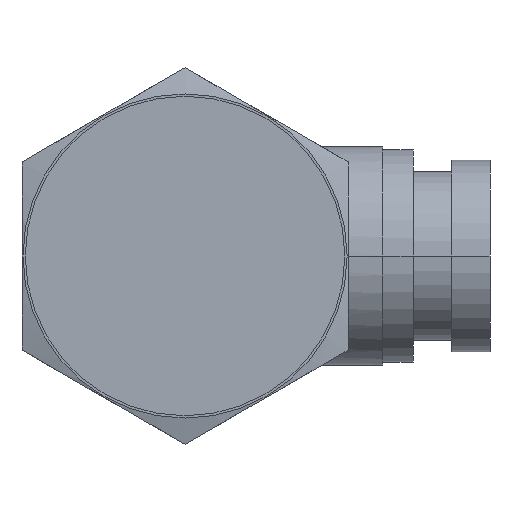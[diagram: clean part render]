
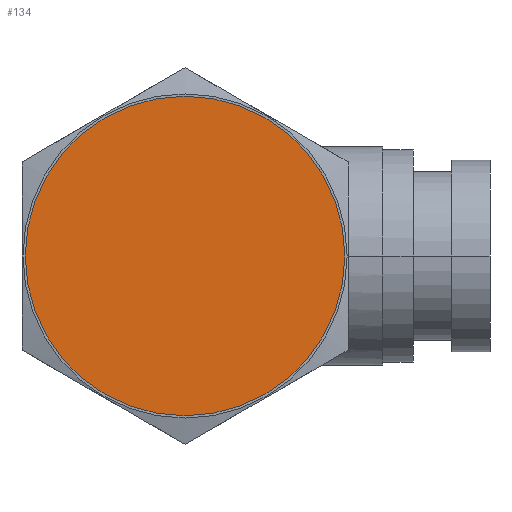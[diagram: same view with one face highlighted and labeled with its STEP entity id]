
A CAD part, front view. The second image highlights one B-rep face of the part: STEP entity #134.
In plain terms, the highlighted planar face has unit normal (0, -1, 0).
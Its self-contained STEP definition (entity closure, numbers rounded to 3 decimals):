
#134 = ADVANCED_FACE( '', ( #261 ), #262, .T. );
#261 = FACE_OUTER_BOUND( '', #388, .T. );
#262 = PLANE( '', #389 );
#388 = EDGE_LOOP( '', ( #853, #854 ) );
#389 = AXIS2_PLACEMENT_3D( '', #855, #856, #857 );
#853 = ORIENTED_EDGE( '', *, *, #861, .T. );
#854 = ORIENTED_EDGE( '', *, *, #1001, .T. );
#855 = CARTESIAN_POINT( '', ( -4.166, -5.1, 0. ) );
#856 = DIRECTION( '', ( 0., -1., 0. ) );
#857 = DIRECTION( '', ( -1., 0., 0. ) );
#861 = EDGE_CURVE( '', #1003, #1007, #1009, .T. );
#1001 = EDGE_CURVE( '', #1007, #1003, #1238, .T. );
#1003 = VERTEX_POINT( '', #1240 );
#1007 = VERTEX_POINT( '', #1245 );
#1009 = CIRCLE( '', #1248, 8.331 );
#1238 = CIRCLE( '', #1821, 8.331 );
#1240 = CARTESIAN_POINT( '', ( -8.331, -5.1, 0. ) );
#1245 = CARTESIAN_POINT( '', ( 8.331, -5.1, 0. ) );
#1248 = AXIS2_PLACEMENT_3D( '', #1827, #1828, #1829 );
#1821 = AXIS2_PLACEMENT_3D( '', #2045, #2046, #2047 );
#1827 = CARTESIAN_POINT( '', ( 0., -5.1, 0. ) );
#1828 = DIRECTION( '', ( 0., -1., 0. ) );
#1829 = DIRECTION( '', ( -1., 0., 0. ) );
#2045 = CARTESIAN_POINT( '', ( 0., -5.1, 0. ) );
#2046 = DIRECTION( '', ( 0., -1., 0. ) );
#2047 = DIRECTION( '', ( -1., 0., 0. ) );
